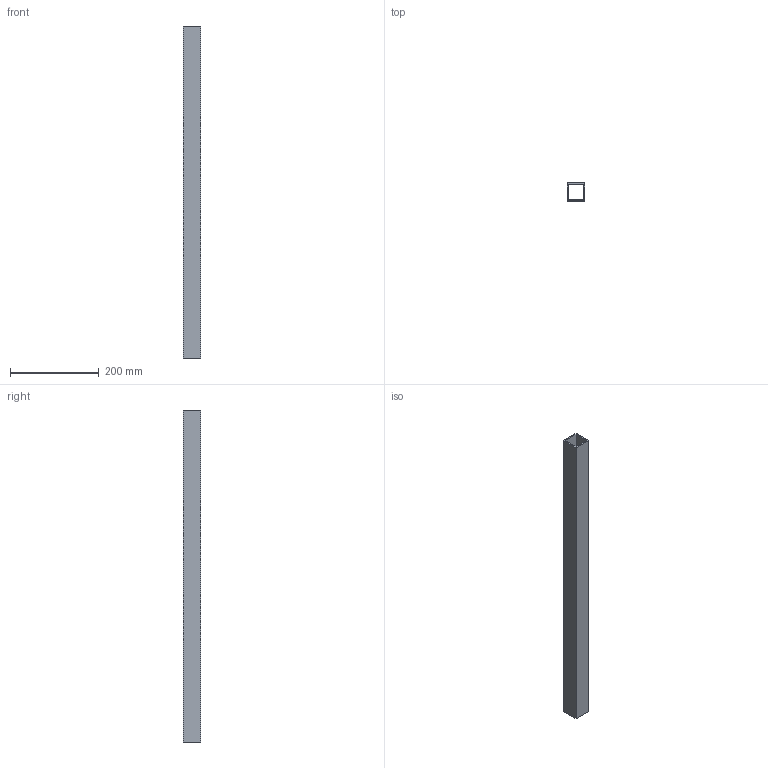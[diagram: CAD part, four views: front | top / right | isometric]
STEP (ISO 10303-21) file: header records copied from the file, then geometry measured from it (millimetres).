
FILE_DESCRIPTION(('Open CASCADE Model'),'2;1');
FILE_NAME('Open CASCADE Shape Model','2026-10-15T15:10:04',('Author'),( 'Open CASCADE'),'Open CASCADE STEP processor 8.0','Open CASCADE 8.0' ,'Unknown');
FILE_SCHEMA(('AUTOMOTIVE_DESIGN { 1 0 10303 214 1 1 1 1 }'));
Length unit declared in the file: millimetre
Products named in the file (1): SHS40x40x3_L750000_P05 33
Bounding box: 40 x 40 x 750 mm (x, y, z)
Volume: 333000 mm3; surface area: 222888 mm2
Topology: 1 solids, 1 shells, 10 faces, 24 edges, 16 vertices
Faces by surface type: plane 10
Entity records: 614 total; most frequent: CARTESIAN_POINT 99, DIRECTION 94, LINE 72, VECTOR 72, ORIENTED_EDGE 48, PCURVE 48, DEFINITIONAL_REPRESENTATION 48, EDGE_CURVE 24
